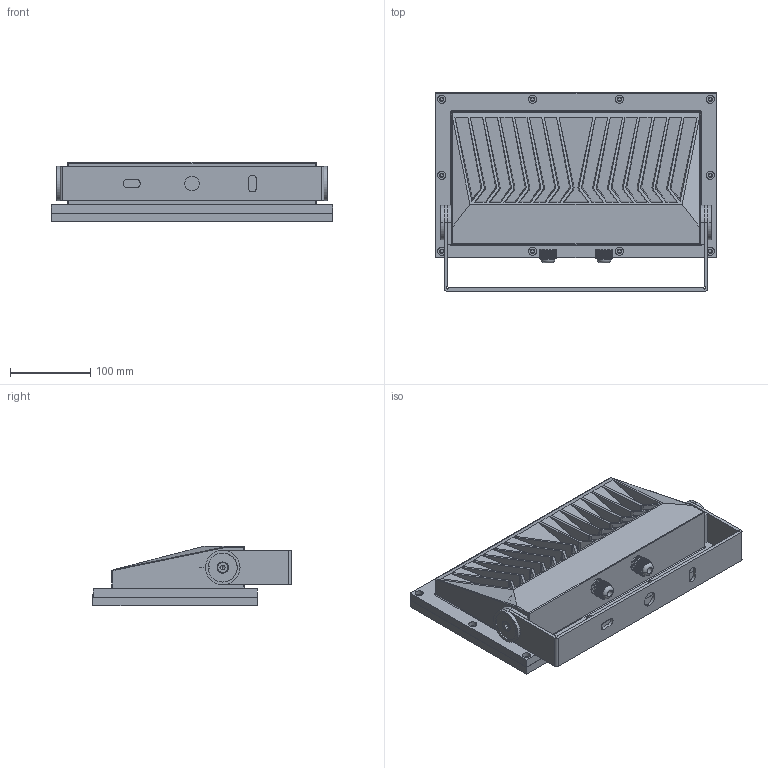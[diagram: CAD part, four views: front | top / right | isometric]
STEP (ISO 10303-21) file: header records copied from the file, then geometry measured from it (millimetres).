
FILE_DESCRIPTION((''),'2;1');
FILE_NAME('C3HKA2157_ASM_4_ASM','2024-11-23T',('C028'),(''),'CREO PARAMETRIC BY PTC INC, 2014190','CREO PARAMETRIC BY PTC INC, 2014190','');
FILE_SCHEMA(('CONFIG_CONTROL_DESIGN'));
Products named in the file (23): FACE-COVER_193_1_1_3_1_1; GLASS_3HK_7_1_1; FACE-COVER_ASM_185_ASM_1_ASM__1_ASM; FANGSHUISAI_185_1_1_2_1_1; PAD_185_1_1_2_1_1; PG9_ASM_185_ASM_1_ASM_1_ASM_ASM_ASM; DENGTIGUIJIAO_187_1_1_2_1_1; 3HKDT_STP_105_1_1_10_1_1; MODULE-HOUSING_204_1_1_2_1_1; M3_185_1_1_2_1_1; DIYAQUDONG_59_1_1_2_1_1; 7HK-FGQ_1; 7HK-FGP_1; BEND_7HK_12_1_3; 7HK_ZHI_JIA_4_1_2; 7HK_CHI_KUAI_2_1_5; MANIFOLD_SOLID_BREP_250585_1_1_; BT-M8-16_1; XINLVJIBAN-00_1; LENS-00_45_1; C20_ASM_1_ASM; C20_ASM; C3HKA2157_ASM_4_ASM
Assembly tree (29 placements, depth 4):
  C3HKA2157_ASM_4_ASM
    FACE-COVER_ASM_185_ASM_1_ASM__1_ASM
      FACE-COVER_193_1_1_3_1_1
      GLASS_3HK_7_1_1
    PG9_ASM_185_ASM_1_ASM_1_ASM_ASM_ASM  x2
      FANGSHUISAI_185_1_1_2_1_1
      PAD_185_1_1_2_1_1
    DENGTIGUIJIAO_187_1_1_2_1_1
    3HKDT_STP_105_1_1_10_1_1
    MODULE-HOUSING_204_1_1_2_1_1
    M3_185_1_1_2_1_1  x2
    DIYAQUDONG_59_1_1_2_1_1
    7HK-FGQ_1
    7HK-FGP_1
    BEND_7HK_12_1_3
    7HK_ZHI_JIA_4_1_2
    7HK_CHI_KUAI_2_1_5  x2
    MANIFOLD_SOLID_BREP_250585_1_1_  x2
    BT-M8-16_1  x2
    C20_ASM
      C20_ASM_1_ASM
        XINLVJIBAN-00_1
        LENS-00_45_1
      LENS-00_45_1  x2
Bounding box: 350 x 246.6 x 74 mm (x, y, z)
Volume: 1540119.2 mm3; surface area: 927367.8 mm2
Topology: 26 solids, 26 shells, 3201 faces, 8697 edges, 5766 vertices
Faces by surface type: plane 2082, cylinder 710, bspline 258, cone 86, torus 36, sphere 20, extrusion 9
Entity records: 87661 total; most frequent: CARTESIAN_POINT 25191, ORIENTED_EDGE 13634, DIRECTION 11521, EDGE_CURVE 6817, VERTEX_POINT 4529, VECTOR 4141, LINE 4138, AXIS2_PLACEMENT_3D 3690
